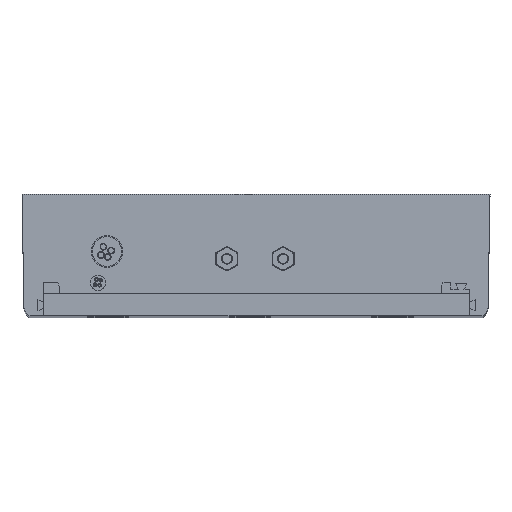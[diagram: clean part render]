
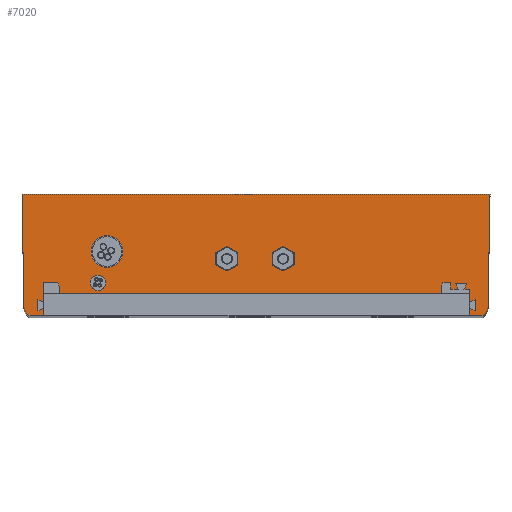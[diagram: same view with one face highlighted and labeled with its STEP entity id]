
A CAD part, top view. The second image highlights one B-rep face of the part: STEP entity #7020.
In plain terms, the highlighted planar face has unit normal (0, 0, 1).
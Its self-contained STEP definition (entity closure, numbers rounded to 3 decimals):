
#371 = VERTEX_POINT ( 'NONE', #4704 ) ;
#424 = EDGE_CURVE ( 'NONE', #6145, #7969, #9251, .T. ) ;
#636 = EDGE_CURVE ( 'NONE', #4444, #2662, #7298, .T. ) ;
#839 = DIRECTION ( 'NONE',  ( 0., 0., 1. ) ) ;
#857 = DIRECTION ( 'NONE',  ( -1., 0., 0. ) ) ;
#1039 = EDGE_LOOP ( 'NONE', ( #12904, #13170 ) ) ;
#1061 = CARTESIAN_POINT ( 'NONE',  ( -20.425, -8.787, 0. ) ) ;
#1093 = AXIS2_PLACEMENT_3D ( 'NONE', #10333, #3745, #9143 ) ;
#1121 = DIRECTION ( 'NONE',  ( 0., 0., 1. ) ) ;
#1185 = EDGE_CURVE ( 'NONE', #6499, #371, #12676, .T. ) ;
#1325 = PLANE ( 'NONE',  #12715 ) ;
#1419 = DIRECTION ( 'NONE',  ( 0., 1., 0. ) ) ;
#1528 = EDGE_CURVE ( 'NONE', #4418, #4348, #4672, .T. ) ;
#1575 = CARTESIAN_POINT ( 'NONE',  ( 31.56, 0.563, 0. ) ) ;
#1985 = DIRECTION ( 'NONE',  ( 1., 0., 0. ) ) ;
#2281 = LINE ( 'NONE', #13343, #12258 ) ;
#2430 = CARTESIAN_POINT ( 'NONE',  ( 0., -14.637, 0. ) ) ;
#2509 = LINE ( 'NONE', #12137, #9304 ) ;
#2543 = CARTESIAN_POINT ( 'NONE',  ( -20.425, -15.137, 0. ) ) ;
#2611 = LINE ( 'NONE', #2543, #6051 ) ;
#2662 = VERTEX_POINT ( 'NONE', #1061 ) ;
#2670 = CARTESIAN_POINT ( 'NONE',  ( 40.66, 0.563, 0. ) ) ;
#2823 = AXIS2_PLACEMENT_3D ( 'NONE', #13440, #5567, #4546 ) ;
#2973 = CARTESIAN_POINT ( 'NONE',  ( 93.475, -14.637, 0. ) ) ;
#3101 = VERTEX_POINT ( 'NONE', #4515 ) ;
#3279 = VECTOR ( 'NONE', #5422, 1000. ) ;
#3288 = FACE_OUTER_BOUND ( 'NONE', #7974, .T. ) ;
#3732 = EDGE_CURVE ( 'NONE', #8153, #14317, #4559, .T. ) ;
#3745 = DIRECTION ( 'NONE',  ( 0., 0., 1. ) ) ;
#4206 = CARTESIAN_POINT ( 'NONE',  ( 97.084, -14.637, 0. ) ) ;
#4348 = VERTEX_POINT ( 'NONE', #2973 ) ;
#4418 = VERTEX_POINT ( 'NONE', #4206 ) ;
#4444 = VERTEX_POINT ( 'NONE', #4636 ) ;
#4515 = CARTESIAN_POINT ( 'NONE',  ( -20.425, -14.637, 0. ) ) ;
#4546 = DIRECTION ( 'NONE',  ( 1., 0., 0. ) ) ;
#4559 = CIRCLE ( 'NONE', #1093, 2.95 ) ;
#4636 = CARTESIAN_POINT ( 'NONE',  ( 93.475, -8.787, 0. ) ) ;
#4672 = LINE ( 'NONE', #2430, #6214 ) ;
#4704 = CARTESIAN_POINT ( 'NONE',  ( -24.335, -14.637, 0. ) ) ;
#4970 = EDGE_CURVE ( 'NONE', #5940, #10361, #7679, .T. ) ;
#5041 = DIRECTION ( 'NONE',  ( 1., 0., 0. ) ) ;
#5422 = DIRECTION ( 'NONE',  ( -1., 0., 0. ) ) ;
#5497 = LINE ( 'NONE', #13164, #3279 ) ;
#5540 = DIRECTION ( 'NONE',  ( 1., 0., 0. ) ) ;
#5567 = DIRECTION ( 'NONE',  ( 0., 0., 1. ) ) ;
#5626 = CARTESIAN_POINT ( 'NONE',  ( -25.676, -12.19, 0. ) ) ;
#5850 = LINE ( 'NONE', #10188, #14315 ) ;
#5940 = VERTEX_POINT ( 'NONE', #2670 ) ;
#5949 = ORIENTED_EDGE ( 'NONE', *, *, #636, .F. ) ;
#5963 = EDGE_CURVE ( 'NONE', #3101, #371, #5497, .T. ) ;
#5996 = CIRCLE ( 'NONE', #8994, 2.95 ) ;
#6029 = ORIENTED_EDGE ( 'NONE', *, *, #9753, .F. ) ;
#6051 = VECTOR ( 'NONE', #13607, 1000. ) ;
#6131 = EDGE_CURVE ( 'NONE', #6499, #7969, #5850, .T. ) ;
#6145 = VERTEX_POINT ( 'NONE', #12430 ) ;
#6214 = VECTOR ( 'NONE', #10381, 1000. ) ;
#6233 = EDGE_CURVE ( 'NONE', #14317, #8153, #5996, .T. ) ;
#6336 = CARTESIAN_POINT ( 'NONE',  ( 43.61, 0.563, 0. ) ) ;
#6419 = CARTESIAN_POINT ( 'NONE',  ( -22.676, -12.137, 0. ) ) ;
#6477 = ORIENTED_EDGE ( 'NONE', *, *, #424, .T. ) ;
#6499 = VERTEX_POINT ( 'NONE', #5626 ) ;
#6609 = ORIENTED_EDGE ( 'NONE', *, *, #11012, .T. ) ;
#6829 = FACE_BOUND ( 'NONE', #1039, .T. ) ;
#6877 = EDGE_CURVE ( 'NONE', #11432, #6145, #2281, .T. ) ;
#7020 = ADVANCED_FACE ( 'NONE', ( #3288, #6829, #11238 ), #1325, .T. ) ;
#7234 = DIRECTION ( 'NONE',  ( -1., 0., 0. ) ) ;
#7298 = LINE ( 'NONE', #14102, #8579 ) ;
#7374 = ORIENTED_EDGE ( 'NONE', *, *, #6877, .T. ) ;
#7628 = DIRECTION ( 'NONE',  ( 0.017, 1., 0. ) ) ;
#7657 = EDGE_LOOP ( 'NONE', ( #13026, #11988 ) ) ;
#7679 = CIRCLE ( 'NONE', #2823, 2.95 ) ;
#7833 = CARTESIAN_POINT ( 'NONE',  ( 25.66, 0.563, 0. ) ) ;
#7969 = VERTEX_POINT ( 'NONE', #14107 ) ;
#7974 = EDGE_LOOP ( 'NONE', ( #9352, #6609, #7374, #6477, #9369, #10134, #8670, #10104, #5949, #6029 ) ) ;
#8086 = DIRECTION ( 'NONE',  ( 0., 0., 1. ) ) ;
#8153 = VERTEX_POINT ( 'NONE', #1575 ) ;
#8298 = CARTESIAN_POINT ( 'NONE',  ( 28.61, 0.563, 0. ) ) ;
#8365 = CIRCLE ( 'NONE', #12296, 2.95 ) ;
#8579 = VECTOR ( 'NONE', #857, 1000. ) ;
#8646 = CIRCLE ( 'NONE', #12358, 3. ) ;
#8670 = ORIENTED_EDGE ( 'NONE', *, *, #5963, .F. ) ;
#8800 = EDGE_CURVE ( 'NONE', #10361, #5940, #8365, .T. ) ;
#8887 = EDGE_CURVE ( 'NONE', #2662, #3101, #2611, .T. ) ;
#8994 = AXIS2_PLACEMENT_3D ( 'NONE', #8298, #8086, #10538 ) ;
#9143 = DIRECTION ( 'NONE',  ( 1., 0., 0. ) ) ;
#9251 = LINE ( 'NONE', #9392, #9600 ) ;
#9304 = VECTOR ( 'NONE', #1419, 1000. ) ;
#9352 = ORIENTED_EDGE ( 'NONE', *, *, #1528, .F. ) ;
#9369 = ORIENTED_EDGE ( 'NONE', *, *, #6131, .F. ) ;
#9392 = CARTESIAN_POINT ( 'NONE',  ( -25.325, 17.763, 0. ) ) ;
#9600 = VECTOR ( 'NONE', #7234, 1000. ) ;
#9728 = DIRECTION ( 'NONE',  ( 0., 0., 1. ) ) ;
#9753 = EDGE_CURVE ( 'NONE', #4348, #4444, #2509, .T. ) ;
#10104 = ORIENTED_EDGE ( 'NONE', *, *, #8887, .F. ) ;
#10134 = ORIENTED_EDGE ( 'NONE', *, *, #1185, .T. ) ;
#10181 = DIRECTION ( 'NONE',  ( 0., 0., 1. ) ) ;
#10188 = CARTESIAN_POINT ( 'NONE',  ( -25.735, -8.787, 0. ) ) ;
#10235 = CARTESIAN_POINT ( 'NONE',  ( 98.425, -12.19, 0. ) ) ;
#10333 = CARTESIAN_POINT ( 'NONE',  ( 28.61, 0.563, 0. ) ) ;
#10361 = VERTEX_POINT ( 'NONE', #11534 ) ;
#10381 = DIRECTION ( 'NONE',  ( -1., 0., 0. ) ) ;
#10538 = DIRECTION ( 'NONE',  ( 1., 0., 0. ) ) ;
#11012 = EDGE_CURVE ( 'NONE', #4418, #11432, #8646, .T. ) ;
#11037 = CARTESIAN_POINT ( 'NONE',  ( 0., 0., 0. ) ) ;
#11238 = FACE_BOUND ( 'NONE', #7657, .T. ) ;
#11432 = VERTEX_POINT ( 'NONE', #10235 ) ;
#11534 = CARTESIAN_POINT ( 'NONE',  ( 46.56, 0.563, 0. ) ) ;
#11988 = ORIENTED_EDGE ( 'NONE', *, *, #4970, .F. ) ;
#12137 = CARTESIAN_POINT ( 'NONE',  ( 93.475, -15.137, 0. ) ) ;
#12217 = DIRECTION ( 'NONE',  ( 1., 0., 0. ) ) ;
#12258 = VECTOR ( 'NONE', #7628, 1000. ) ;
#12296 = AXIS2_PLACEMENT_3D ( 'NONE', #6336, #9728, #1985 ) ;
#12358 = AXIS2_PLACEMENT_3D ( 'NONE', #12422, #10181, #12217 ) ;
#12422 = CARTESIAN_POINT ( 'NONE',  ( 95.426, -12.137, 0. ) ) ;
#12430 = CARTESIAN_POINT ( 'NONE',  ( 98.948, 17.763, 0. ) ) ;
#12676 = CIRCLE ( 'NONE', #13605, 3. ) ;
#12715 = AXIS2_PLACEMENT_3D ( 'NONE', #11037, #1121, #5540 ) ;
#12904 = ORIENTED_EDGE ( 'NONE', *, *, #3732, .F. ) ;
#13026 = ORIENTED_EDGE ( 'NONE', *, *, #8800, .F. ) ;
#13164 = CARTESIAN_POINT ( 'NONE',  ( 0., -14.637, 0. ) ) ;
#13170 = ORIENTED_EDGE ( 'NONE', *, *, #6233, .F. ) ;
#13343 = CARTESIAN_POINT ( 'NONE',  ( 98.608, -1.721, 0. ) ) ;
#13440 = CARTESIAN_POINT ( 'NONE',  ( 43.61, 0.563, 0. ) ) ;
#13510 = DIRECTION ( 'NONE',  ( -0.017, 1., 0. ) ) ;
#13605 = AXIS2_PLACEMENT_3D ( 'NONE', #6419, #839, #5041 ) ;
#13607 = DIRECTION ( 'NONE',  ( 0., -1., 0. ) ) ;
#14102 = CARTESIAN_POINT ( 'NONE',  ( -20.425, -8.787, 0. ) ) ;
#14107 = CARTESIAN_POINT ( 'NONE',  ( -26.199, 17.763, 0. ) ) ;
#14315 = VECTOR ( 'NONE', #13510, 1000. ) ;
#14317 = VERTEX_POINT ( 'NONE', #7833 ) ;
